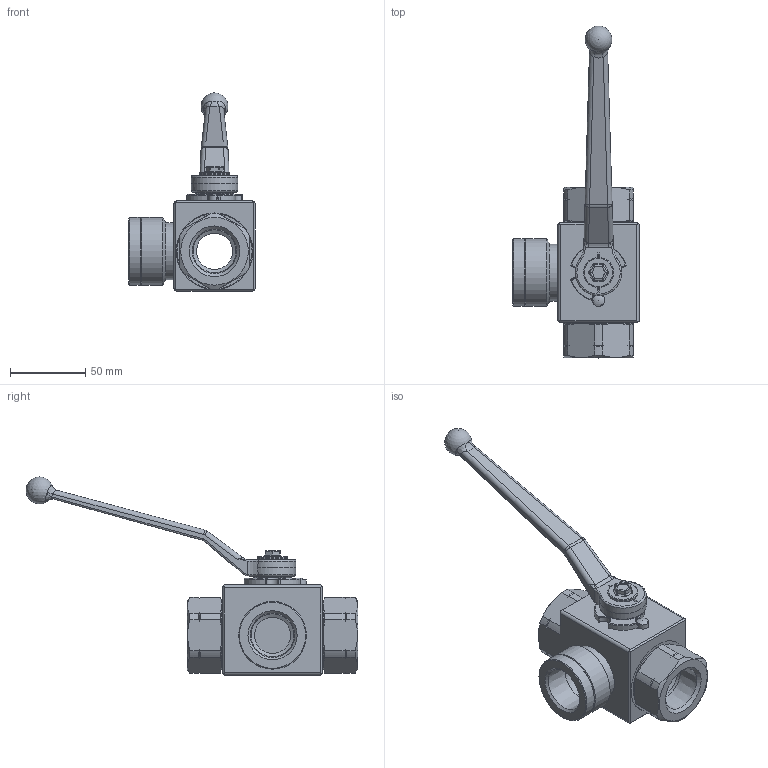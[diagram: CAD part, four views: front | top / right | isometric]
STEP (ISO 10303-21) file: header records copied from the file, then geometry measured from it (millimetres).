
FILE_DESCRIPTION( ( 'Unknown' ), '1' );
FILE_NAME( 'H:/PISTER/3D-MODELLE/BK3 stp/BK3 DN25 1 NPT.stp', 'Unknown', ( 'Unknown' ), ( 'Unknown' ), 'PSStep 14.0', 'Unknown', ' ' );
FILE_SCHEMA( ( 'AUTOMOTIVE_DESIGN { 1 0 10303 214 1 1 1 1 }' ) );
Length unit declared in the file: millimetre
Products named in the file (11): Assem1; 10-025-001; 06-025-186-oa7; 09-14-001; 58-28740-13-oa8; Griff_SW14; 58-0933-147; 04-025-154-oa9; 04-025-154-oa10; 01-025-024-oa11; 04-025-060-oa12
Assembly tree (10 placements, depth 2):
  Assem1
    10-025-001
    06-025-186-oa7
    09-14-001
    58-28740-13-oa8
    Griff_SW14
    58-0933-147
    04-025-154-oa9
    04-025-154-oa10
    01-025-024-oa11
    04-025-060-oa12
Bounding box: 84 x 220.68 x 131.9 mm (x, y, z)
Volume: 135104 mm3; surface area: 73750.4 mm2
Topology: 10 solids, 10 shells, 417 faces, 1055 edges, 649 vertices
Faces by surface type: cylinder 140, plane 128, cone 63, torus 44, bspline 28, sphere 14
Full cylindrical faces by diameter (mm): 5 x1, 6 x1, 6.5 x1, 7.98 x1, 20 x3, 20.2 x1, 24 x3, 25 x1, 28.644 x3, 37.8 x1, 38 x1, 43.4 x2, 45 x2, 46 x2, 50 x2, 51 x2
Entity records: 16986 total; most frequent: CARTESIAN_POINT 4056, DIRECTION 2027, ORIENTED_EDGE 1876, EDGE_CURVE 938, AXIS2_PLACEMENT_3D 837, VERTEX_POINT 615, EDGE_LOOP 510, FACE_OUTER_BOUND 457
